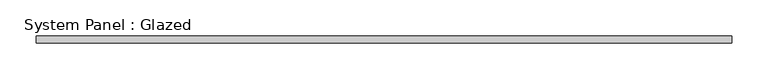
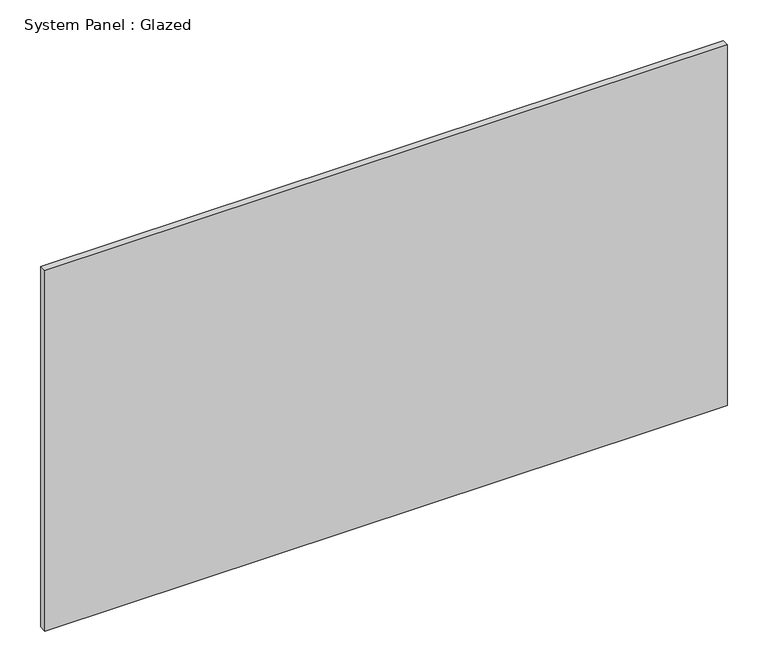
"""IFC4 building model written with IfcOpenShell, lengths in millimetres: plate geometry, System Panel : Glazed."""

from ifc_helpers import new_model, si_unit, origin, origin_with_axes, place, context, project, spatial, polyline, outline, extrude, source, transform, mapped, element, save


def system_panel_glazed_9e0da50f(model_context):
    return source(origin(), model_context, "Body", "SweptSolid", [
        extrude(outline(polyline([(483.1249907, -5.0), (-483.1249907, -5.0), (-483.1249907, 5.0), (483.1249907, 5.0), (483.1249907, -5.0)])), origin_with_axes(), (0.0, 0.0, 1.0), 540.0),
    ])


if __name__ == "__main__":
    model = new_model("IFC4")
    model_context = context("Model", 3, world=origin())
    ifc_project = project(units=[si_unit("LENGTHUNIT", "METRE", prefix="MILLI")], contexts=[model_context])
    site = spatial("IfcSite", under=ifc_project)
    building = spatial("IfcBuilding", under=site)
    placement = place(None, origin())
    system_panel_glazed_shape = system_panel_glazed_9e0da50f(model_context)
    element("IfcPlate", 1, ObjectType="System Panel : Glazed", at=placement, inside=building, context=model_context, shape_type="MappedRepresentation", body=[
        mapped(system_panel_glazed_shape, transform((0.0, 0.0, 0.0), x_axis=(1.0, 0.0, 0.0), y_axis=(0.0, 1.0, 0.0), z_axis=(0.0, 0.0, 1.0))),
    ])
    save(model, "model.ifc")
